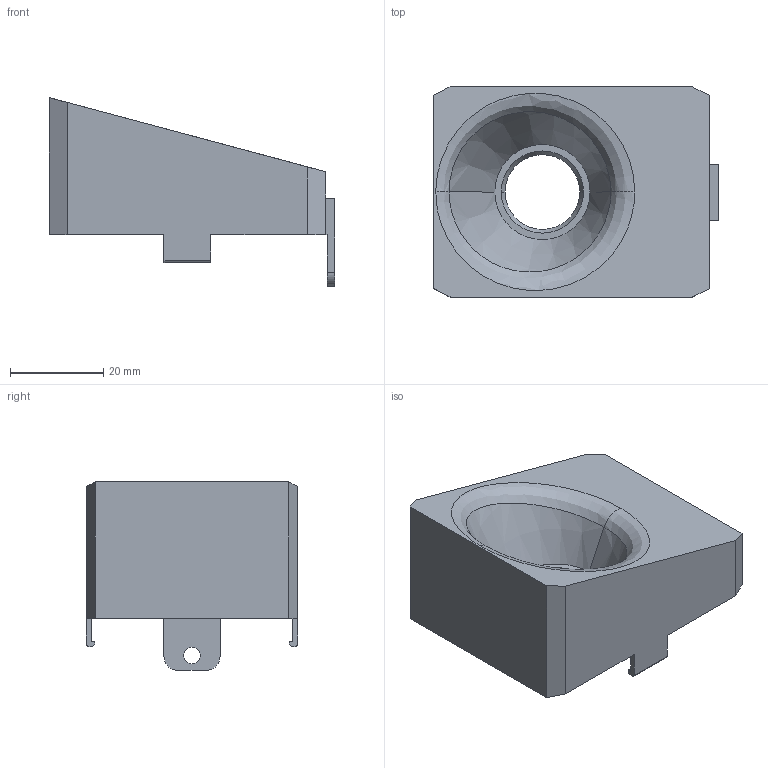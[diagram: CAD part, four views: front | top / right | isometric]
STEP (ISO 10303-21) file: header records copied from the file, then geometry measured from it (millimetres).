
FILE_DESCRIPTION((''),'2;1');
FILE_NAME('ID3000XM--0001','2023-10-12T19:58:26',('qinyangfan'),(''),'CREO PARAMETRIC BY PTC INC, 2020044','CREO PARAMETRIC BY PTC INC, 2020044','');
FILE_SCHEMA(('CONFIG_CONTROL_DESIGN'));
Length unit declared in the file: millimetre
Products named in the file (1): ID3000XM--0001
Bounding box: 61.2 x 45.2 x 40.42 mm (x, y, z)
Volume: 13740.4 mm3; surface area: 16108.1 mm2
Topology: 1 solids, 1 shells, 101 faces, 289 edges, 192 vertices
Faces by surface type: plane 67, cylinder 24, cone 6, bspline 4
Entity records: 4744 total; most frequent: CARTESIAN_POINT 2095, ORIENTED_EDGE 578, DIRECTION 491, EDGE_CURVE 289, VECTOR 213, LINE 213, VERTEX_POINT 192, AXIS2_PLACEMENT_3D 139
